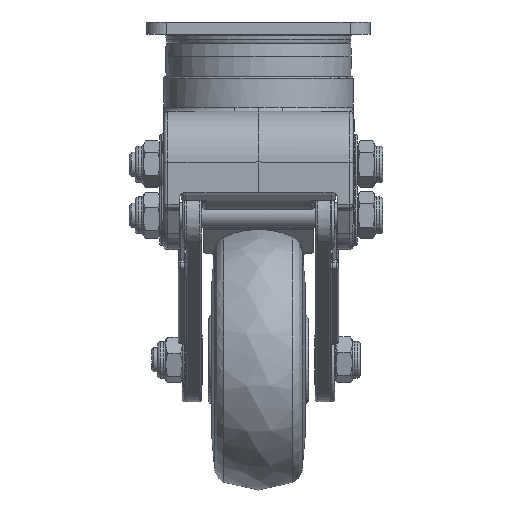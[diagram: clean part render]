
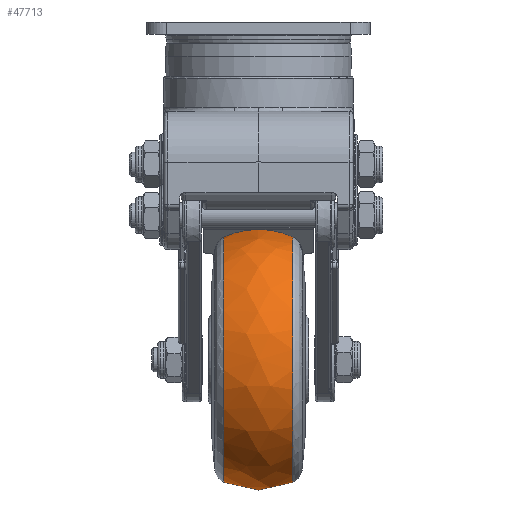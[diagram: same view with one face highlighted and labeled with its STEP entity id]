
A CAD part, left-side view. The second image highlights one B-rep face of the part: STEP entity #47713.
In plain terms, the highlighted free-form (B-spline) face has degree [2, 2] with [3, 9] control points.
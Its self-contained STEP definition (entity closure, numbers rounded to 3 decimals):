
#18=(
BOUNDED_SURFACE()
B_SPLINE_SURFACE(2,2,((#83838,#83839,#83840,#83841,#83842,#83843,#83844,
#83845,#83846),(#83847,#83848,#83849,#83850,#83851,#83852,#83853,#83854,
#83855),(#83856,#83857,#83858,#83859,#83860,#83861,#83862,#83863,#83864)),
 .UNSPECIFIED.,.F.,.T.,.F.)
B_SPLINE_SURFACE_WITH_KNOTS((3,3),(3,2,2,2,3),(-0.438,0.438),
(-3.142,-1.571,0.,1.571,3.142),
 .UNSPECIFIED.)
GEOMETRIC_REPRESENTATION_ITEM()
RATIONAL_B_SPLINE_SURFACE(((1.,0.707,1.,0.707,1.,
0.707,1.,0.707,1.),(0.906,0.64,
0.906,0.64,0.906,0.64,
0.906,0.64,0.906),(1.,0.707,
1.,0.707,1.,0.707,1.,0.707,1.)))
REPRESENTATION_ITEM('')
SURFACE()
);
#8819=FACE_OUTER_BOUND('',#11571,.T.);
#11571=EDGE_LOOP('',(#40345,#40346,#40347,#40348,#40349,#40350,#40351,#40352));
#20204=CIRCLE('',#51585,30.112);
#20205=CIRCLE('',#51586,30.112);
#20206=CIRCLE('',#51587,30.112);
#20217=CIRCLE('',#51604,30.112);
#20218=CIRCLE('',#51605,30.112);
#20219=CIRCLE('',#51606,30.112);
#20221=CIRCLE('',#51608,20.);
#23214=VERTEX_POINT('',#83795);
#23215=VERTEX_POINT('',#83797);
#23216=VERTEX_POINT('',#83799);
#23227=VERTEX_POINT('',#83831);
#23228=VERTEX_POINT('',#83832);
#23229=VERTEX_POINT('',#83834);
#29190=EDGE_CURVE('',#23214,#23215,#20204,.T.);
#29191=EDGE_CURVE('',#23215,#23216,#20205,.T.);
#29192=EDGE_CURVE('',#23216,#23214,#20206,.T.);
#29206=EDGE_CURVE('',#23227,#23228,#20217,.T.);
#29207=EDGE_CURVE('',#23229,#23227,#20218,.T.);
#29208=EDGE_CURVE('',#23228,#23229,#20219,.T.);
#29210=EDGE_CURVE('',#23229,#23215,#20221,.T.);
#40345=ORIENTED_EDGE('',*,*,#29206,.T.);
#40346=ORIENTED_EDGE('',*,*,#29208,.T.);
#40347=ORIENTED_EDGE('',*,*,#29210,.T.);
#40348=ORIENTED_EDGE('',*,*,#29190,.F.);
#40349=ORIENTED_EDGE('',*,*,#29192,.F.);
#40350=ORIENTED_EDGE('',*,*,#29191,.F.);
#40351=ORIENTED_EDGE('',*,*,#29210,.F.);
#40352=ORIENTED_EDGE('',*,*,#29207,.T.);
#47713=ADVANCED_FACE('',(#8819),#18,.F.);
#51585=AXIS2_PLACEMENT_3D('',#83798,#60210,#60211);
#51586=AXIS2_PLACEMENT_3D('',#83800,#60212,#60213);
#51587=AXIS2_PLACEMENT_3D('',#83801,#60214,#60215);
#51604=AXIS2_PLACEMENT_3D('',#83833,#60251,#60252);
#51605=AXIS2_PLACEMENT_3D('',#83835,#60253,#60254);
#51606=AXIS2_PLACEMENT_3D('',#83836,#60255,#60256);
#51608=AXIS2_PLACEMENT_3D('',#83865,#60259,#60260);
#60210=DIRECTION('center_axis',(0.,-1.,0.));
#60211=DIRECTION('ref_axis',(-0.325,0.,-0.946));
#60212=DIRECTION('center_axis',(0.,-1.,0.));
#60213=DIRECTION('ref_axis',(-0.325,0.,-0.946));
#60214=DIRECTION('center_axis',(0.,-1.,0.));
#60215=DIRECTION('ref_axis',(-0.325,0.,-0.946));
#60251=DIRECTION('center_axis',(0.,-1.,0.));
#60252=DIRECTION('ref_axis',(-0.325,0.,-0.946));
#60253=DIRECTION('center_axis',(0.,-1.,0.));
#60254=DIRECTION('ref_axis',(-0.325,0.,-0.946));
#60255=DIRECTION('center_axis',(0.,-1.,0.));
#60256=DIRECTION('ref_axis',(-0.325,0.,-0.946));
#60259=DIRECTION('center_axis',(1.,0.,0.));
#60260=DIRECTION('ref_axis',(0.,0.,
1.));
#83795=CARTESIAN_POINT('',(18.28,-13.461,-40.184));
#83797=CARTESIAN_POINT('',(8.498,-13.461,-38.551));
#83798=CARTESIAN_POINT('Origin',(8.498,-13.461,-68.663));
#83799=CARTESIAN_POINT('',(-1.284,-13.461,-97.142));
#83800=CARTESIAN_POINT('Origin',(8.498,-13.461,-68.663));
#83801=CARTESIAN_POINT('Origin',(8.498,-13.461,-68.663));
#83831=CARTESIAN_POINT('',(-1.284,3.504,-97.142));
#83832=CARTESIAN_POINT('',(18.28,3.504,-40.184));
#83833=CARTESIAN_POINT('Origin',(8.498,3.504,-68.663));
#83834=CARTESIAN_POINT('',(8.498,3.504,-38.551));
#83835=CARTESIAN_POINT('Origin',(8.498,3.504,-68.663));
#83836=CARTESIAN_POINT('Origin',(8.498,3.504,-68.663));
#83838=CARTESIAN_POINT('Ctrl Pts',(8.498,3.504,-38.551));
#83839=CARTESIAN_POINT('Ctrl Pts',(-21.614,3.504,-38.551));
#83840=CARTESIAN_POINT('Ctrl Pts',(-21.614,3.504,-68.663));
#83841=CARTESIAN_POINT('Ctrl Pts',(-21.614,3.504,-98.775));
#83842=CARTESIAN_POINT('Ctrl Pts',(8.498,3.504,-98.775));
#83843=CARTESIAN_POINT('Ctrl Pts',(38.61,3.504,-98.775));
#83844=CARTESIAN_POINT('Ctrl Pts',(38.61,3.504,-68.663));
#83845=CARTESIAN_POINT('Ctrl Pts',(38.61,3.504,-38.551));
#83846=CARTESIAN_POINT('Ctrl Pts',(8.498,3.504,-38.551));
#83847=CARTESIAN_POINT('Ctrl Pts',(8.498,-4.979,-34.579));
#83848=CARTESIAN_POINT('Ctrl Pts',(-25.586,-4.979,
-34.579));
#83849=CARTESIAN_POINT('Ctrl Pts',(-25.586,-4.979,
-68.663));
#83850=CARTESIAN_POINT('Ctrl Pts',(-25.586,-4.979,
-102.748));
#83851=CARTESIAN_POINT('Ctrl Pts',(8.498,-4.979,-102.748));
#83852=CARTESIAN_POINT('Ctrl Pts',(42.583,-4.979,-102.748));
#83853=CARTESIAN_POINT('Ctrl Pts',(42.583,-4.979,-68.663));
#83854=CARTESIAN_POINT('Ctrl Pts',(42.583,-4.979,-34.579));
#83855=CARTESIAN_POINT('Ctrl Pts',(8.498,-4.979,-34.579));
#83856=CARTESIAN_POINT('Ctrl Pts',(8.498,-13.461,-38.551));
#83857=CARTESIAN_POINT('Ctrl Pts',(-21.614,-13.461,
-38.551));
#83858=CARTESIAN_POINT('Ctrl Pts',(-21.614,-13.461,
-68.663));
#83859=CARTESIAN_POINT('Ctrl Pts',(-21.614,-13.461,
-98.775));
#83860=CARTESIAN_POINT('Ctrl Pts',(8.498,-13.461,-98.775));
#83861=CARTESIAN_POINT('Ctrl Pts',(38.61,-13.461,-98.775));
#83862=CARTESIAN_POINT('Ctrl Pts',(38.61,-13.461,-68.663));
#83863=CARTESIAN_POINT('Ctrl Pts',(38.61,-13.461,-38.551));
#83864=CARTESIAN_POINT('Ctrl Pts',(8.498,-13.461,-38.551));
#83865=CARTESIAN_POINT('Origin',(8.498,-4.979,-56.663));
